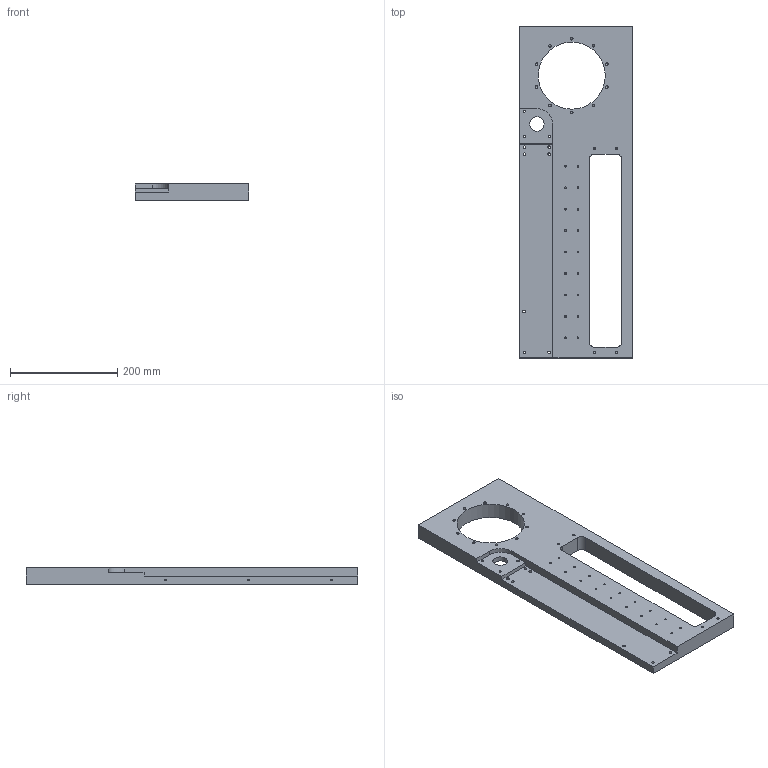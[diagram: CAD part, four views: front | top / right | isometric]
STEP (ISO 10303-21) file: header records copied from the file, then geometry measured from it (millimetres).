
FILE_DESCRIPTION(('STEP AP203'), '1');
FILE_NAME('ÊÀÐØÊ02.00.00.01 - Ïëèòà íèæíÿÿ', '', ('UNSPECIFIED'), ('UNSPECIFIED'), 'C3D Converter', 'C3D Toolkit', '');
FILE_SCHEMA(('CONFIG_CONTROL_DESIGN'));
Length unit declared in the file: millimetre
Products named in the file (1): КАРШК02.00.00.01
Bounding box: 212 x 619 x 30 mm (x, y, z)
Volume: 2398222.7 mm3; surface area: 298989.2 mm2
Topology: 1 solids, 1 shells, 134 faces, 615 edges, 537 vertices
Faces by surface type: cylinder 67, cone 43, plane 24
Full cylindrical faces by diameter (mm): 3.242 x21, 4.134 x12, 4.917 x20, 27 x1, 38.1 x1, 125 x1
Entity records: 32515 total; most frequent: CARTESIAN_POINT 27486, DIRECTION 1038, AXIS2_PLACEMENT_3D 484, ORIENTED_EDGE 416, CIRCLE 349, COLOUR_RGB 266, PRESENTATION_STYLE_ASSIGNMENT 266, STYLED_ITEM 266
